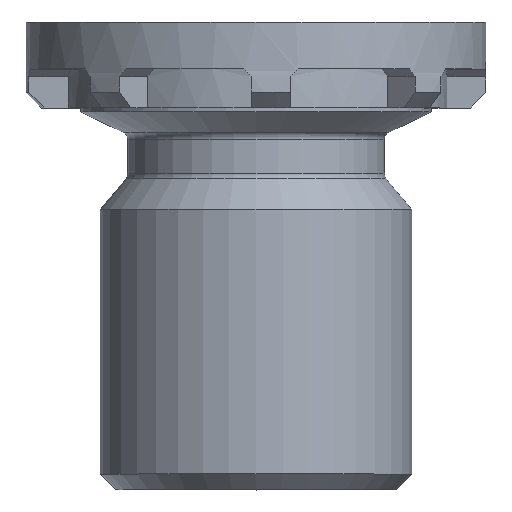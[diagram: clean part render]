
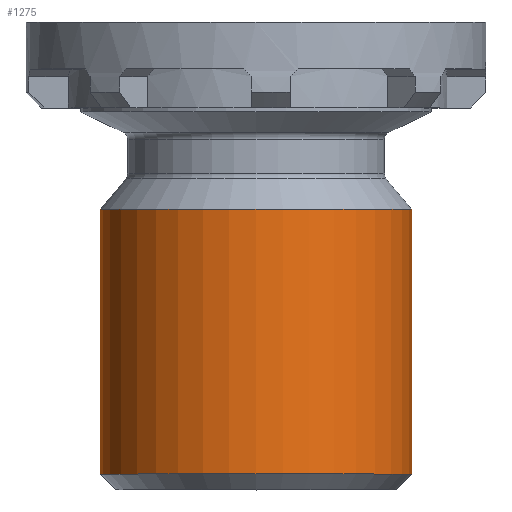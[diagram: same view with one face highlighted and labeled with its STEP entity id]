
A CAD part, top view. The second image highlights one B-rep face of the part: STEP entity #1275.
In plain terms, the highlighted cylindrical face has radius 2 mm (diameter 4 mm), a full revolution.
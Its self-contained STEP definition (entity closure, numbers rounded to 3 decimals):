
#38=CYLINDRICAL_SURFACE('',#1443,2.);
#92=CIRCLE('',#1440,2.);
#93=CIRCLE('',#1441,2.);
#94=CIRCLE('',#1444,2.);
#166=FACE_OUTER_BOUND('',#234,.T.);
#234=EDGE_LOOP('',(#1102,#1103,#1104,#1105,#1106));
#334=LINE('',#2248,#429);
#429=VECTOR('',#1831,2.);
#581=VERTEX_POINT('',#2240);
#582=VERTEX_POINT('',#2242);
#583=VERTEX_POINT('',#2247);
#767=EDGE_CURVE('',#581,#582,#92,.T.);
#768=EDGE_CURVE('',#582,#581,#93,.T.);
#769=EDGE_CURVE('',#582,#583,#334,.T.);
#770=EDGE_CURVE('',#583,#583,#94,.T.);
#1102=ORIENTED_EDGE('',*,*,#767,.F.);
#1103=ORIENTED_EDGE('',*,*,#768,.F.);
#1104=ORIENTED_EDGE('',*,*,#769,.T.);
#1105=ORIENTED_EDGE('',*,*,#770,.T.);
#1106=ORIENTED_EDGE('',*,*,#769,.F.);
#1275=ADVANCED_FACE('',(#166),#38,.T.);
#1440=AXIS2_PLACEMENT_3D('',#2243,#1823,#1824);
#1441=AXIS2_PLACEMENT_3D('',#2244,#1825,#1826);
#1443=AXIS2_PLACEMENT_3D('',#2246,#1829,#1830);
#1444=AXIS2_PLACEMENT_3D('',#2249,#1832,#1833);
#1823=DIRECTION('center_axis',(0.,-1.,0.));
#1824=DIRECTION('ref_axis',(-1.,0.,0.));
#1825=DIRECTION('center_axis',(0.,-1.,0.));
#1826=DIRECTION('ref_axis',(-1.,0.,0.));
#1829=DIRECTION('center_axis',(0.,-1.,0.));
#1830=DIRECTION('ref_axis',(1.,0.,0.));
#1831=DIRECTION('',(0.,1.,0.));
#1832=DIRECTION('center_axis',(0.,-1.,0.));
#1833=DIRECTION('ref_axis',(1.,0.,0.));
#2240=CARTESIAN_POINT('',(2.,0.2,0.));
#2242=CARTESIAN_POINT('',(-2.,0.2,0.));
#2243=CARTESIAN_POINT('Origin',(0.,0.2,0.));
#2244=CARTESIAN_POINT('Origin',(0.,0.2,0.));
#2246=CARTESIAN_POINT('Origin',(0.,1.8,0.));
#2247=CARTESIAN_POINT('',(-2.,3.6,0.));
#2248=CARTESIAN_POINT('',(-2.,1.8,0.));
#2249=CARTESIAN_POINT('Origin',(0.,3.6,0.));
